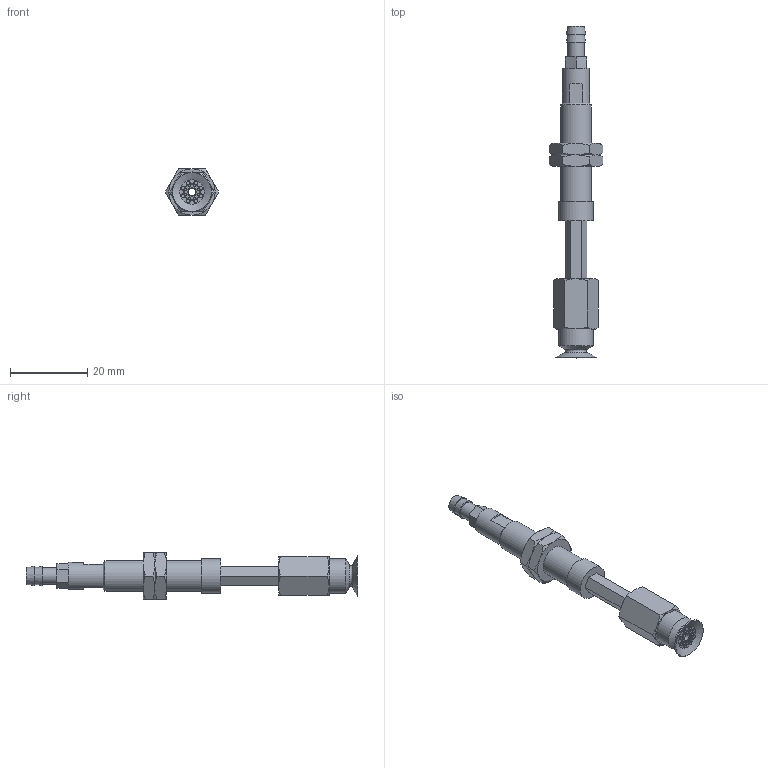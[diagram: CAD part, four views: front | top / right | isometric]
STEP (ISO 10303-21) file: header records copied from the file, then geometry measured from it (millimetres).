
FILE_DESCRIPTION(('STEP AP203'),'1');
FILE_NAME('-T.stp','2025-08-12T07:56:32',(' '),(' '),'Spatial InterOp 3D',' ',' ');
FILE_SCHEMA(('CONFIG_CONTROL_DESIGN'));
Length unit declared in the file: millimetre
Products named in the file (7): BNABPATH-10A-15-※-T; NAPATH-10A-15--F; Nut-10A-S; CONNECTOR-10A-3-T-PA; BPAG-10A-※; NAPATH-10A-15--M; ADAPTER
Assembly tree (7 placements, depth 2):
  BNABPATH-10A-15-※-T
    NAPATH-10A-15--F
    Nut-10A-S  x2
    CONNECTOR-10A-3-T-PA
    BPAG-10A-※
    NAPATH-10A-15--M
    ADAPTER
Bounding box: 13.86 x 86 x 12 mm (x, y, z)
Volume: 4106.4 mm3; surface area: 5161.9 mm2
Topology: 7 solids, 7 shells, 173 faces, 347 edges, 215 vertices
Faces by surface type: plane 81, cone 49, cylinder 33, torus 10
Full cylindrical faces by diameter (mm): 0.9 x16, 2 x3, 3 x1, 4 x2, 4.134 x1, 4.3 x1, 5 x1, 6 x2, 7 x1, 7.188 x2, 8 x1, 9 x2
Entity records: 4102 total; most frequent: CARTESIAN_POINT 864, DIRECTION 620, ORIENTED_EDGE 476, AXIS2_PLACEMENT_3D 272, EDGE_LOOP 242, EDGE_CURVE 238, FACE_OUTER_BOUND 192, VERTEX_POINT 180
